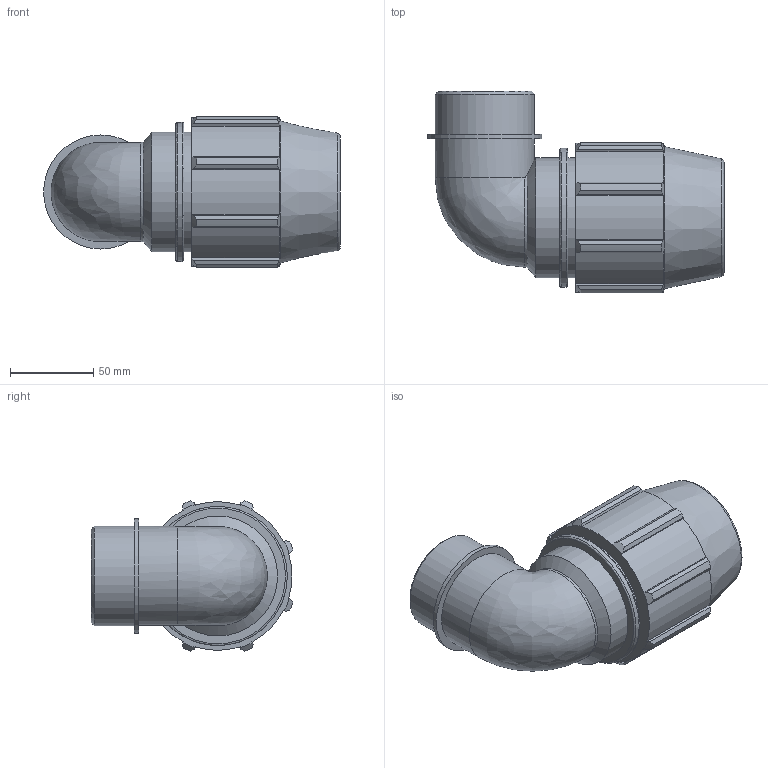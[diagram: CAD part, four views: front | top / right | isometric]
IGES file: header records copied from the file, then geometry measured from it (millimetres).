
Global section: file name: 078500050020__0785060500200A.ipt; native system: Autodesk Inventor 2015; preprocessor: unknown; author: KIM; date: 20170606.133140; units: millimetre
Bounding box: 178.28 x 121.16 x 90.33 mm (x, y, z)
Volume: 549072.4 mm3; surface area: 91305.2 mm2
Topology: 1 solids, 1 shells, 86 faces, 237 edges, 158 vertices
Faces by surface type: plane 41, cylinder 23, cone 12, revolution 9, bspline 1
Full cylindrical faces by diameter (mm): 59.614 x2, 68.556 x1, 72 x2, 83.52 x1
